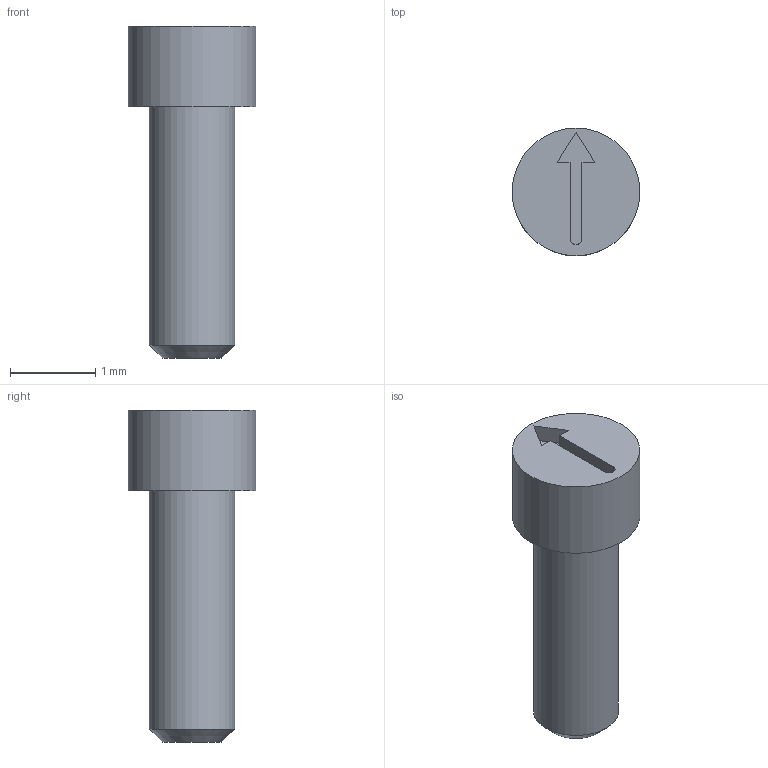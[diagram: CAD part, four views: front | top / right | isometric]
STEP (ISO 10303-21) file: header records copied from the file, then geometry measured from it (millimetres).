
FILE_DESCRIPTION(/* description */ (''),/* implementation_level */ '2;1');
FILE_NAME(/* name */ 'IMC-D1400-IB3-0.step',/* time_stamp */ '2025-05-05T11:35:50+02:00',/* author */ (''),/* organization */ (''),/* preprocessor_version */ 'ST-DEVELOPER v20.1',/* originating_system */ 'Autodesk Translation Framework v14.4.0.0',/* authorisation */ '');
FILE_SCHEMA (('AUTOMOTIVE_DESIGN { 1 0 10303 214 3 1 1 }'));
Length unit declared in the file: millimetre
Products named in the file (1): D1400-IB3-0
Bounding box: 1.5 x 1.5 x 3.9 mm (x, y, z)
Volume: 3.9 mm3; surface area: 17.6 mm2
Topology: 1 solids, 1 shells, 14 faces, 29 edges, 19 vertices
Faces by surface type: plane 10, cylinder 3, cone 1
Full cylindrical faces by diameter (mm): 1 x1, 1.5 x1
Entity records: 405 total; most frequent: DIRECTION 66, CARTESIAN_POINT 63, ORIENTED_EDGE 58, EDGE_CURVE 29, LINE 22, VECTOR 22, AXIS2_PLACEMENT_3D 22, VERTEX_POINT 19
